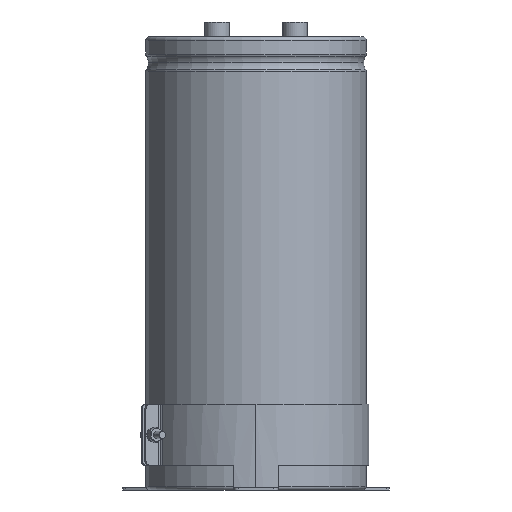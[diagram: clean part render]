
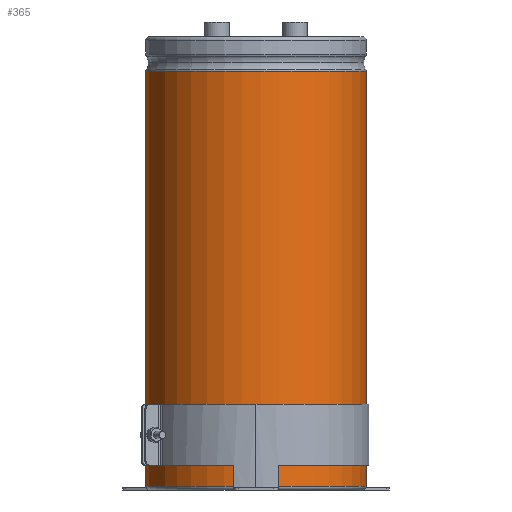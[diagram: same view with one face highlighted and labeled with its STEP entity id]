
A CAD part, left-side view. The second image highlights one B-rep face of the part: STEP entity #365.
In plain terms, the highlighted cylindrical face has radius 45 mm (diameter 90 mm), a partial arc.
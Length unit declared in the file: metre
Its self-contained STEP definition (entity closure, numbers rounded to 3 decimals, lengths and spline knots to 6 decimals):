
#365=ADVANCED_FACE('0:237',(#597),#598,.T.);
#597=FACE_OUTER_BOUND('',#1082,.T.);
#598=CYLINDRICAL_SURFACE('',#1083,0.045);
#1082=EDGE_LOOP('',(#2038,#2039,#2040,#2041));
#1083=AXIS2_PLACEMENT_3D('',#2042,#2043,#2044);
#2038=ORIENTED_EDGE('',*,*,#2995,.T.);
#2039=ORIENTED_EDGE('',*,*,#3004,.T.);
#2040=ORIENTED_EDGE('',*,*,#3006,.T.);
#2041=ORIENTED_EDGE('',*,*,#3007,.F.);
#2042=CARTESIAN_POINT('',(0.0,0.0,0.0));
#2043=DIRECTION('',(-0.0,0.0,1.0));
#2044=DIRECTION('',(0.0,1.0,0.0));
#2995=EDGE_CURVE('',#5626,#5634,#5635,.T.);
#3004=EDGE_CURVE('0:309',#5634,#5645,#5647,.T.);
#3006=EDGE_CURVE('0:312',#5645,#5649,#5650,.T.);
#3007=EDGE_CURVE('0:315',#5626,#5649,#5651,.T.);
#5626=VERTEX_POINT('',#6662);
#5634=VERTEX_POINT('',#6670);
#5635=LINE('',#6671,#6672);
#5645=VERTEX_POINT('',#6683);
#5647=CIRCLE('',#6685,0.045);
#5649=VERTEX_POINT('',#6687);
#5650=LINE('',#6688,#6689);
#5651=CIRCLE('',#6690,0.045);
#6662=CARTESIAN_POINT('',(0.,-0.045,0.0015));
#6670=CARTESIAN_POINT('',(0.,-0.045,0.1709));
#6671=CARTESIAN_POINT('',(0.,-0.045,0.0862));
#6672=VECTOR('',#8209,1.0);
#6683=CARTESIAN_POINT('',(-0.004,0.044822,0.1709));
#6685=AXIS2_PLACEMENT_3D('',#8226,#8227,#8228);
#6687=CARTESIAN_POINT('',(-0.004,0.044822,0.0015));
#6688=CARTESIAN_POINT('',(-0.004,0.044822,0.1709));
#6689=VECTOR('',#8229,0.001);
#6690=AXIS2_PLACEMENT_3D('',#8230,#8231,#8232);
#8209=DIRECTION('',(0.0,0.0,1.0));
#8226=CARTESIAN_POINT('',(0.0,0.0,0.1709));
#8227=DIRECTION('',(0.0,0.0,-1.0));
#8228=DIRECTION('',(0.0,1.0,0.0));
#8229=DIRECTION('',(0.0,0.0,-1.0));
#8230=CARTESIAN_POINT('',(0.0,0.0,0.0015));
#8231=DIRECTION('',(0.0,0.0,-1.0));
#8232=DIRECTION('',(0.0,1.0,0.0));
